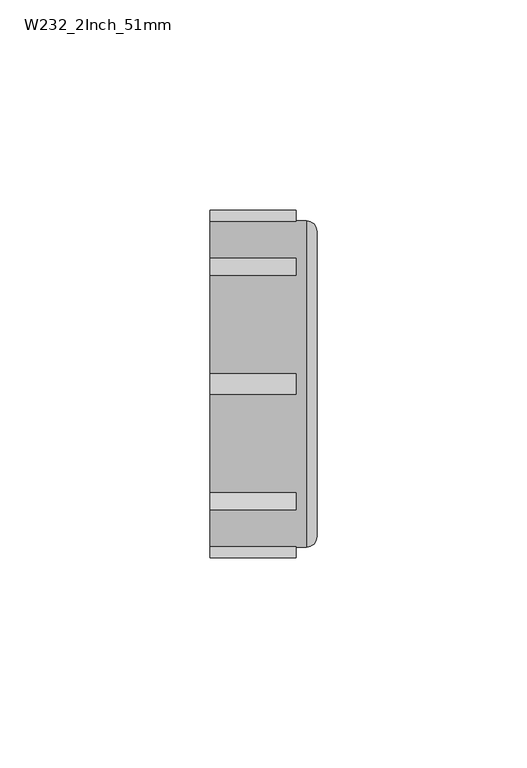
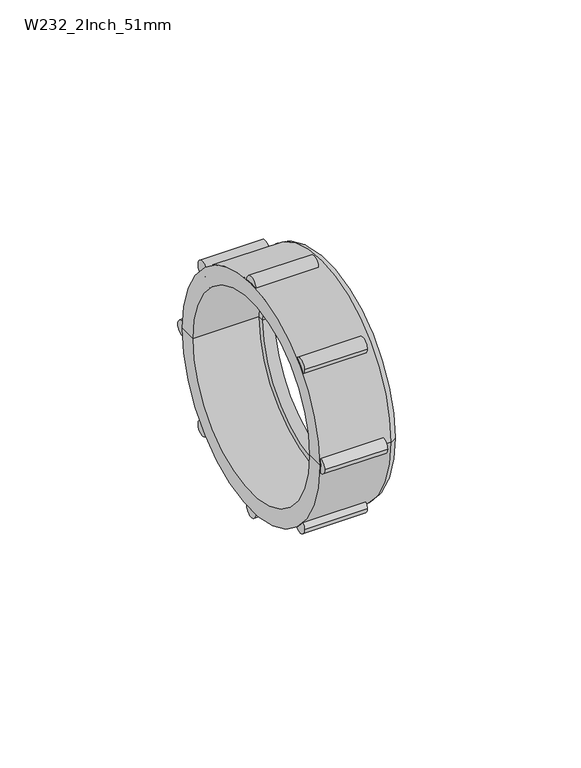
"""IFC4 building model written with IfcOpenShell, lengths in millimetres: pipe fitting geometry, Durapipe_PipeFitting_VulcatheneMechanical_Nut_W23 : W232_2Inch_51mm."""

from ifc_helpers import new_model, si_unit, point, frame, frame_2d, origin, place, context, project, spatial, polyline, circle_curve, ellipse_curve, trimmed, segment, composite_curve, outline, extrude, source, transform, mapped, element, save
from ifc_brep_helpers import plane_surface, cylinder_surface, revolved_surface, advanced_brep


def w232_2inch_51mm_67d13c43(model_context):
    return source(origin(), model_context, "Body", "SolidModel", [
        advanced_brep(
        [(-12.7, 38.8, 0.0), (10.2, 38.8, 0.0), (10.2, -38.8, 0.0), (-12.7, -38.8, 0.0), (-12.7, 33.0, 0.0), (-12.7, -33.0, 0.0), (12.7, 36.3, 0.0), (12.7, 31.0, 0.0), (12.7, -31.0, 0.0), (12.7, -36.3, 0.0), (8.8, 33.0, 0.0), (8.8, -33.0, 0.0), (8.8, 31.0, 0.0), (8.8, -31.0, 0.0)],
        [
            (0, 1),
            (1, 2, circle_curve(frame((10.2, 0.0, 0.0), z_axis=(-1.0, 0.0, 0.0), x_axis=(0.0, -1.0, 0.0)), 38.8)),
            (2, 3),
            (3, 0, circle_curve(frame((-12.7, 0.0, 0.0), z_axis=(1.0, 0.0, 0.0), x_axis=(0.0, -1.0, 0.0)), 38.8)),
            (2, 1, circle_curve(frame((10.2, 0.0, 0.0), z_axis=(-1.0, 0.0, 0.0), x_axis=(0.0, -1.0, 0.0)), 38.8)),
            (0, 3, circle_curve(frame((-12.7, 0.0, 0.0), z_axis=(1.0, 0.0, 0.0), x_axis=(0.0, -1.0, 0.0)), 38.8)),
            (4, 0),
            (3, 5),
            (5, 4, circle_curve(frame((-12.7, 0.0, 0.0), z_axis=(1.0, 0.0, 0.0), x_axis=(0.0, -1.0, 0.0)), 33.0)),
            (4, 5, circle_curve(frame((-12.7, 0.0, 0.0), z_axis=(1.0, 0.0, 0.0), x_axis=(0.0, -1.0, 0.0)), 33.0)),
            (6, 7),
            (7, 8, circle_curve(frame((12.7, 0.0, 0.0), z_axis=(-1.0, 0.0, 0.0), x_axis=(0.0, -1.0, 0.0)), 31.0)),
            (8, 9),
            (9, 6, circle_curve(frame((12.7, 0.0, 0.0), z_axis=(1.0, 0.0, 0.0), x_axis=(0.0, -1.0, 0.0)), 36.3)),
            (8, 7, circle_curve(frame((12.7, 0.0, 0.0), z_axis=(-1.0, 0.0, 0.0), x_axis=(0.0, -1.0, 0.0)), 31.0)),
            (6, 9, circle_curve(frame((12.7, 0.0, 0.0), z_axis=(1.0, 0.0, 0.0), x_axis=(0.0, -1.0, 0.0)), 36.3)),
            (1, 6, circle_curve(frame((10.2, 36.3, 0.0), z_axis=(0.0, 0.0, -1.0), x_axis=(1.0, 0.0, 0.0)), 2.5)),
            (9, 2, circle_curve(frame((10.2, -36.3, 0.0), z_axis=(0.0, 0.0, -1.0), x_axis=(1.0, 0.0, 0.0)), 2.5)),
            (10, 4),
            (5, 11),
            (11, 10, circle_curve(frame((8.8, 0.0, 0.0), z_axis=(1.0, 0.0, 0.0), x_axis=(0.0, -1.0, 0.0)), 33.0)),
            (10, 11, circle_curve(frame((8.8, 0.0, 0.0), z_axis=(1.0, 0.0, 0.0), x_axis=(0.0, -1.0, 0.0)), 33.0)),
            (12, 10),
            (11, 13),
            (13, 12, circle_curve(frame((8.8, 0.0, 0.0), z_axis=(1.0, 0.0, 0.0), x_axis=(0.0, -1.0, 0.0)), 31.0)),
            (12, 13, circle_curve(frame((8.8, 0.0, 0.0), z_axis=(1.0, 0.0, 0.0), x_axis=(0.0, -1.0, 0.0)), 31.0)),
            (7, 12),
            (13, 8),
        ],
        [
            cylinder_surface(frame((1573.5018184, 0.0, 0.0), z_axis=(-1.0, 0.0, 0.0), x_axis=(0.0, -1.0, 0.0)), 38.8),
            plane_surface(frame((-12.7, 0.0, 0.0), z_axis=(-1.0, 0.0, 0.0), x_axis=(0.0, -1.0, 0.0))),
            plane_surface(frame((12.7, 0.0, 0.0), z_axis=(1.0, 0.0, 0.0), x_axis=(0.0, -1.0, 0.0))),
            revolved_surface(trimmed(ellipse_curve(frame((10.2, -36.3, 0.0), z_axis=(0.0, 0.0, -1.0), x_axis=(1.0, 0.0, 0.0)), 2.5, 2.5), [point((12.7, -36.3, 0.0))], [point((10.2, -38.8, 0.0))], True, "CARTESIAN"), (1573.5018184, 0.0, 0.0), (-1.0, 0.0, 0.0)),
            revolved_surface(polyline([(-12.700000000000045, -33.0, 0.0), (8.799999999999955, -33.0, 0.0)]), (1573.5018184, 0.0, 0.0), (-1.0, 0.0, 0.0)),
            plane_surface(frame((8.8, 0.0, 0.0), z_axis=(-1.0, 0.0, 0.0), x_axis=(0.0, -1.0, 0.0))),
            revolved_surface(polyline([(8.799999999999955, -31.0, 0.0), (12.700000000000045, -31.0, 0.0)]), (1573.5018184, 0.0, 0.0), (-1.0, 0.0, 0.0)),
        ],
        [
            (0, [[1, 2, 3, 4]]),
            (0, [[-3, 5, -1, 6]]),
            (1, [[7, -4, 8, 9]]),
            (1, [[-8, -6, -7, 10]]),
            (2, [[11, 12, 13, 14]]),
            (2, [[-13, 15, -11, 16]]),
            (3, [[17, -14, 18, -2]]),
            (3, [[-18, -16, -17, -5]]),
            (4, [[19, -9, 20, 21]]),
            (4, [[-20, -10, -19, 22]]),
            (5, [[23, -21, 24, 25]]),
            (5, [[-24, -22, -23, 26]]),
            (6, [[27, -25, 28, -12]]),
            (6, [[-28, -26, -27, -15]]),
        ],
    ),
        extrude(outline(composite_curve([segment(trimmed(circle_curve(frame_2d((0.0, 38.8)), 2.5), [point((2.5, 38.8))], [point((-2.5, 38.8))], False, "CARTESIAN"), True, "CONTINUOUS"), segment(trimmed(circle_curve(frame_2d((0.0, 38.8)), 2.5), [point((-2.5, 38.8))], [point((2.5, 38.8))], False, "CARTESIAN"), True, "CONTINUOUS")], self_intersect=False)), frame((-12.7, 0.0, 0.0), z_axis=(1.0, 0.0, 0.0), x_axis=(0.0, 1.0, 0.0)), (0.0, 0.0, 1.0), 20.4),
        extrude(outline(composite_curve([segment(trimmed(circle_curve(frame_2d((-27.4357431, 27.4357431)), 2.5), [point((-24.9357431, 27.4357431))], [point((-29.9357431, 27.4357431))], False, "CARTESIAN"), True, "CONTINUOUS"), segment(trimmed(circle_curve(frame_2d((-27.4357431, 27.4357431)), 2.5), [point((-29.9357431, 27.4357431))], [point((-24.9357431, 27.4357431))], False, "CARTESIAN"), True, "CONTINUOUS")], self_intersect=False)), frame((-12.7, 0.0, 0.0), z_axis=(1.0, 0.0, 0.0), x_axis=(0.0, 1.0, 0.0)), (0.0, 0.0, 1.0), 20.4),
        extrude(outline(composite_curve([segment(trimmed(circle_curve(frame_2d((-38.8, 0.0)), 2.5), [point((-36.3, 0.0))], [point((-41.3, 0.0))], False, "CARTESIAN"), True, "CONTINUOUS"), segment(trimmed(circle_curve(frame_2d((-38.8, 0.0)), 2.5), [point((-41.3, 0.0))], [point((-36.3, 0.0))], False, "CARTESIAN"), True, "CONTINUOUS")], self_intersect=False)), frame((-12.7, 0.0, 0.0), z_axis=(1.0, 0.0, 0.0), x_axis=(0.0, 1.0, 0.0)), (0.0, 0.0, 1.0), 20.4),
        extrude(outline(composite_curve([segment(trimmed(circle_curve(frame_2d((-27.4357431, -27.4357431)), 2.5), [point((-24.9357431, -27.4357431))], [point((-29.9357431, -27.4357431))], False, "CARTESIAN"), True, "CONTINUOUS"), segment(trimmed(circle_curve(frame_2d((-27.4357431, -27.4357431)), 2.5), [point((-29.9357431, -27.4357431))], [point((-24.9357431, -27.4357431))], False, "CARTESIAN"), True, "CONTINUOUS")], self_intersect=False)), frame((-12.7, 0.0, 0.0), z_axis=(1.0, 0.0, 0.0), x_axis=(0.0, 1.0, 0.0)), (0.0, 0.0, 1.0), 20.4),
        extrude(outline(composite_curve([segment(trimmed(circle_curve(frame_2d((0.0, -38.8)), 2.5), [point((2.5, -38.8))], [point((-2.5, -38.8))], False, "CARTESIAN"), True, "CONTINUOUS"), segment(trimmed(circle_curve(frame_2d((0.0, -38.8)), 2.5), [point((-2.5, -38.8))], [point((2.5, -38.8))], False, "CARTESIAN"), True, "CONTINUOUS")], self_intersect=False)), frame((-12.7, 0.0, 0.0), z_axis=(1.0, 0.0, 0.0), x_axis=(0.0, 1.0, 0.0)), (0.0, 0.0, 1.0), 20.4),
        extrude(outline(composite_curve([segment(trimmed(circle_curve(frame_2d((27.4357431, -27.4357431)), 2.5), [point((29.9357431, -27.4357431))], [point((24.9357431, -27.4357431))], False, "CARTESIAN"), True, "CONTINUOUS"), segment(trimmed(circle_curve(frame_2d((27.4357431, -27.4357431)), 2.5), [point((24.9357431, -27.4357431))], [point((29.9357431, -27.4357431))], False, "CARTESIAN"), True, "CONTINUOUS")], self_intersect=False)), frame((-12.7, 0.0, 0.0), z_axis=(1.0, 0.0, 0.0), x_axis=(0.0, 1.0, 0.0)), (0.0, 0.0, 1.0), 20.4),
        extrude(outline(composite_curve([segment(trimmed(circle_curve(frame_2d((38.8, 0.0)), 2.5), [point((41.3, 0.0))], [point((36.3, 0.0))], False, "CARTESIAN"), True, "CONTINUOUS"), segment(trimmed(circle_curve(frame_2d((38.8, 0.0)), 2.5), [point((36.3, 0.0))], [point((41.3, 0.0))], False, "CARTESIAN"), True, "CONTINUOUS")], self_intersect=False)), frame((-12.7, 0.0, 0.0), z_axis=(1.0, 0.0, 0.0), x_axis=(0.0, 1.0, 0.0)), (0.0, 0.0, 1.0), 20.4),
        extrude(outline(composite_curve([segment(trimmed(circle_curve(frame_2d((27.4357431, 27.4357431)), 2.5), [point((29.9357431, 27.4357431))], [point((24.9357431, 27.4357431))], False, "CARTESIAN"), True, "CONTINUOUS"), segment(trimmed(circle_curve(frame_2d((27.4357431, 27.4357431)), 2.5), [point((24.9357431, 27.4357431))], [point((29.9357431, 27.4357431))], False, "CARTESIAN"), True, "CONTINUOUS")], self_intersect=False)), frame((-12.7, 0.0, 0.0), z_axis=(1.0, 0.0, 0.0), x_axis=(0.0, 1.0, 0.0)), (0.0, 0.0, 1.0), 20.4),
    ])


if __name__ == "__main__":
    model = new_model("IFC4")
    model_context = context("Model", 3, world=origin())
    ifc_project = project(units=[si_unit("LENGTHUNIT", "METRE", prefix="MILLI")], contexts=[model_context])
    site = spatial("IfcSite", under=ifc_project)
    building = spatial("IfcBuilding", under=site)
    placement = place(None, origin())
    w232_2inch_51mm_shape = w232_2inch_51mm_67d13c43(model_context)
    element("IfcPipeFitting", 1, ObjectType="Durapipe_PipeFitting_VulcatheneMechanical_Nut_W23 : W232_2Inch_51mm", at=placement, inside=building, context=model_context, shape_type="MappedRepresentation", body=[
        mapped(w232_2inch_51mm_shape, transform((0.0, 0.0, 0.0), x_axis=(1.0, 0.0, 0.0), y_axis=(0.0, 1.0, 0.0), z_axis=(0.0, 0.0, 1.0))),
    ])
    save(model, "model.ifc")
